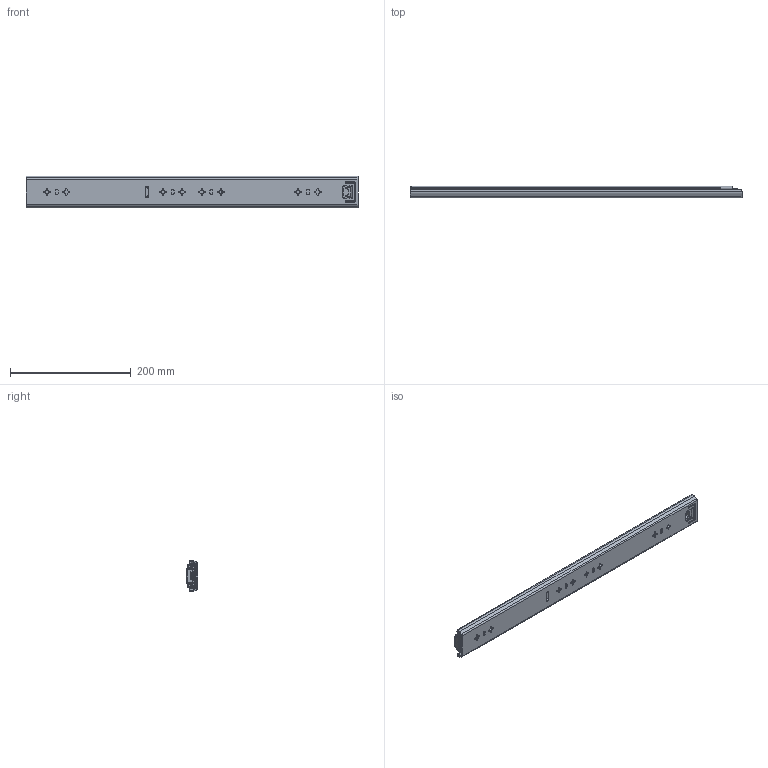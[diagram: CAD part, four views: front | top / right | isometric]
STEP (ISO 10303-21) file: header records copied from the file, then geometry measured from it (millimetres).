
FILE_DESCRIPTION((''),'2;1');
FILE_NAME('1053-02-22_ASM','2022-08-15T',('jishu015'),(''),'PRO/ENGINEER BY PARAMETRIC TECHNOLOGY CORPORATION, 2010280','PRO/ENGINEER BY PARAMETRIC TECHNOLOGY CORPORATION, 2010280','');
FILE_SCHEMA(('CONFIG_CONTROL_DESIGN'));
Length unit declared in the file: millimetre
Products named in the file (16): 1053-02-22WAIKE; 1053WEIJIAO_____________; 53-WAIKEJIAO-22; 1053-02-22WAIKE_ASM; 1053ZHUTIAO-175_____________; 53-5-6GANZHU_____________; 1053ZHUTIAO-175MM______________ASM; 1053-02-18ZHONGGUI_____________; 53ZHIDIJIAO_____________; 1053-02-18ZHONGGUI______________ASM; 1053XIAOZHUJIA-14GE_; 1053XIAOZHUJIA-12GE_ASM; 1053-02-18NEIGUI_____________; 53BACHA____________; 1053-02-18NEIGUI______________ASM; 1053-02-22_ASM
Assembly tree (63 placements, depth 3):
  1053-02-22_ASM
    1053-02-22WAIKE_ASM
      1053-02-22WAIKE
      1053WEIJIAO_____________
      53-WAIKEJIAO-22
    1053ZHUTIAO-175MM______________ASM  x2
      1053ZHUTIAO-175_____________
      53-5-6GANZHU_____________
    1053-02-18ZHONGGUI______________ASM
      1053-02-18ZHONGGUI_____________
      53ZHIDIJIAO_____________
    1053XIAOZHUJIA-12GE_ASM
      1053XIAOZHUJIA-14GE_
      53-5-6GANZHU_____________  x40
    1053-02-18NEIGUI______________ASM
      1053-02-18NEIGUI_____________
      53BACHA____________
Bounding box: 550 x 18.7 x 53 mm (x, y, z)
Volume: 207903 mm3; surface area: 239184 mm2
Topology: 66 solids, 66 shells, 1830 faces, 5229 edges, 3261 vertices
Faces by surface type: cylinder 792, plane 726, sphere 130, bspline 80, cone 68, torus 34
Entity records: 59799 total; most frequent: CARTESIAN_POINT 15142, ORIENTED_EDGE 9434, DIRECTION 9273, EDGE_CURVE 4717, AXIS2_PLACEMENT_3D 3258, VERTEX_POINT 3039, VECTOR 2757, LINE 2757
